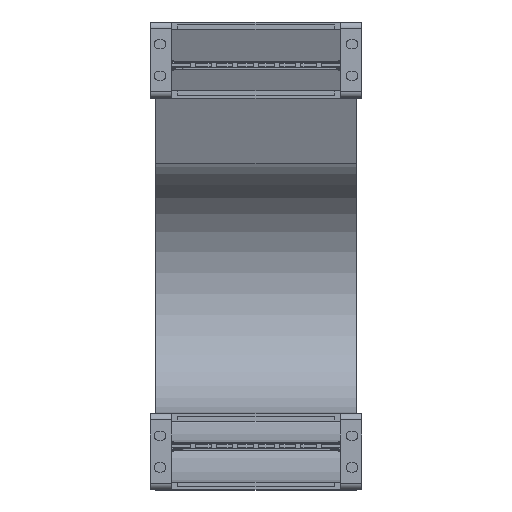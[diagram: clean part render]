
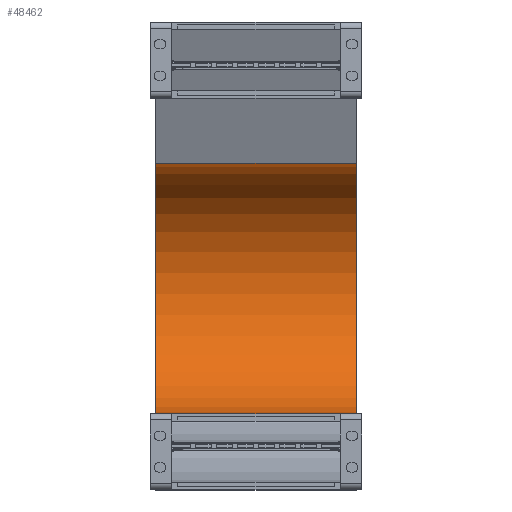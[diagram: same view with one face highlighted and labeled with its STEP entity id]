
A CAD part, top view. The second image highlights one B-rep face of the part: STEP entity #48462.
In plain terms, the highlighted cylindrical face has radius 59.5 mm (diameter 119 mm), a partial arc.
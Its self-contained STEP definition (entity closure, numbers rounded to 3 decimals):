
#47614=DIRECTION('',(-1.,0.,0.));
#47615=VECTOR('',#47614,95.);
#47616=CARTESIAN_POINT('',(47.5,36.,-400.));
#47617=LINE('',#47616,#47615);
#47628=DIRECTION('',(-1.,0.,0.));
#47629=VECTOR('',#47628,95.);
#47630=CARTESIAN_POINT('',(47.5,154.774,-405.18));
#47631=LINE('',#47630,#47629);
#47635=CARTESIAN_POINT('',(47.5,95.5,-400.));
#47636=DIRECTION('',(-1.,0.,0.));
#47637=DIRECTION('',(0.,0.996,-0.087));
#47638=AXIS2_PLACEMENT_3D('',#47635,#47636,#47637);
#47714=CARTESIAN_POINT('',(-47.5,95.5,-400.));
#47715=DIRECTION('',(-1.,0.,0.));
#47716=DIRECTION('',(0.,0.996,-0.087));
#47717=AXIS2_PLACEMENT_3D('',#47714,#47715,#47716);
#47836=CARTESIAN_POINT('',(47.5,154.774,-405.18));
#47837=CARTESIAN_POINT('',(-47.5,154.774,-405.18));
#47838=VERTEX_POINT('',#47836);
#47839=VERTEX_POINT('',#47837);
#47860=CARTESIAN_POINT('',(47.5,36.,-400.));
#47861=CARTESIAN_POINT('',(-47.5,36.,-400.));
#47862=VERTEX_POINT('',#47860);
#47863=VERTEX_POINT('',#47861);
#48448=CARTESIAN_POINT('',(1.,95.5,-400.));
#48449=DIRECTION('',(-1.,0.,0.));
#48450=DIRECTION('',(0.,-0.996,0.087));
#48451=AXIS2_PLACEMENT_3D('',#48448,#48449,#48450);
#48452=CYLINDRICAL_SURFACE('',#48451,59.5);
#48454=ORIENTED_EDGE('',*,*,#48453,.F.);
#48456=ORIENTED_EDGE('',*,*,#48455,.T.);
#48457=ORIENTED_EDGE('',*,*,#48431,.T.);
#48459=ORIENTED_EDGE('',*,*,#48458,.F.);
#48460=EDGE_LOOP('',(#48454,#48456,#48457,#48459));
#48461=FACE_OUTER_BOUND('',#48460,.F.);
#47639=CIRCLE('',#47638,59.5);
#47718=CIRCLE('',#47717,59.5);
#48431=EDGE_CURVE('',#47862,#47863,#47617,.T.);
#48453=EDGE_CURVE('',#47838,#47839,#47631,.T.);
#48455=EDGE_CURVE('',#47838,#47862,#47639,.T.);
#48458=EDGE_CURVE('',#47839,#47863,#47718,.T.);
#48462=ADVANCED_FACE('',(#48461),#48452,.F.);
